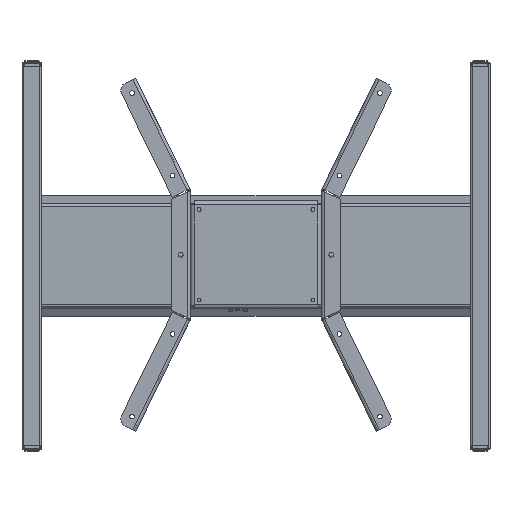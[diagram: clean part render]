
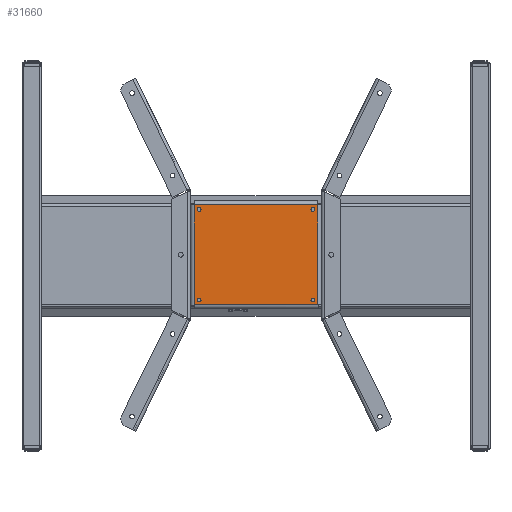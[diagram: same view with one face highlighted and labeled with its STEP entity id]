
A CAD part, top view. The second image highlights one B-rep face of the part: STEP entity #31660.
In plain terms, the highlighted planar face has unit normal (0, 0, 1).
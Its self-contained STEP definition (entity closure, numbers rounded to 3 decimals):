
#1020 = CARTESIAN_POINT ( 'NONE',  ( 64., -79., 4. ) ) ;
#1280 = CARTESIAN_POINT ( 'NONE',  ( -64., 79., 4. ) ) ;
#1377 = FACE_BOUND ( 'NONE', #14714, .T. ) ;
#1973 = EDGE_CURVE ( 'NONE', #35339, #35339, #27885, .T. ) ;
#2367 = CIRCLE ( 'NONE', #12226, 2.5 ) ;
#3017 = EDGE_CURVE ( 'NONE', #14528, #13711, #7368, .T. ) ;
#3313 = CARTESIAN_POINT ( 'NONE',  ( 60.5, -73., 4. ) ) ;
#3489 = DIRECTION ( 'NONE',  ( 1., 0., 0. ) ) ;
#5507 = DIRECTION ( 'NONE',  ( 1., 0., 0. ) ) ;
#5602 = CIRCLE ( 'NONE', #34122, 2.5 ) ;
#7201 = VERTEX_POINT ( 'NONE', #34484 ) ;
#7276 = AXIS2_PLACEMENT_3D ( 'NONE', #28139, #24705, #3489 ) ;
#7368 = LINE ( 'NONE', #32469, #13468 ) ;
#8321 = DIRECTION ( 'NONE',  ( 0., 1., 0. ) ) ;
#9368 = EDGE_CURVE ( 'NONE', #14265, #14265, #45827, .T. ) ;
#9590 = CARTESIAN_POINT ( 'NONE',  ( 64., -79., 4. ) ) ;
#9756 = FACE_OUTER_BOUND ( 'NONE', #20658, .T. ) ;
#9940 = DIRECTION ( 'NONE',  ( 0., 0., 1. ) ) ;
#10088 = DIRECTION ( 'NONE',  ( 1., 0., 0. ) ) ;
#10512 = PLANE ( 'NONE',  #45490 ) ;
#10803 = DIRECTION ( 'NONE',  ( 0., 0., 1. ) ) ;
#12226 = AXIS2_PLACEMENT_3D ( 'NONE', #28722, #39297, #18022 ) ;
#13468 = VECTOR ( 'NONE', #43029, 1000. ) ;
#13711 = VERTEX_POINT ( 'NONE', #17840 ) ;
#14248 = EDGE_CURVE ( 'NONE', #7201, #35127, #38231, .T. ) ;
#14265 = VERTEX_POINT ( 'NONE', #27958 ) ;
#14528 = VERTEX_POINT ( 'NONE', #25828 ) ;
#14714 = EDGE_LOOP ( 'NONE', ( #15557 ) ) ;
#15335 = LINE ( 'NONE', #1020, #17570 ) ;
#15557 = ORIENTED_EDGE ( 'NONE', *, *, #41912, .F. ) ;
#17278 = ORIENTED_EDGE ( 'NONE', *, *, #35622, .T. ) ;
#17570 = VECTOR ( 'NONE', #8321, 1000. ) ;
#17840 = CARTESIAN_POINT ( 'NONE',  ( -64., 79., 4. ) ) ;
#18022 = DIRECTION ( 'NONE',  ( 1., 0., 0. ) ) ;
#18072 = FACE_BOUND ( 'NONE', #37927, .T. ) ;
#18081 = ORIENTED_EDGE ( 'NONE', *, *, #34280, .F. ) ;
#18656 = VERTEX_POINT ( 'NONE', #3313 ) ;
#20476 = CARTESIAN_POINT ( 'NONE',  ( 58., 73., 4. ) ) ;
#20658 = EDGE_LOOP ( 'NONE', ( #41464, #17278, #44479, #40182 ) ) ;
#21435 = CARTESIAN_POINT ( 'NONE',  ( -55.5, 73., 4. ) ) ;
#22115 = VECTOR ( 'NONE', #42335, 1000. ) ;
#24070 = EDGE_CURVE ( 'NONE', #35127, #14528, #15335, .T. ) ;
#24227 = VERTEX_POINT ( 'NONE', #21435 ) ;
#24705 = DIRECTION ( 'NONE',  ( 0., 0., 1. ) ) ;
#24735 = FACE_BOUND ( 'NONE', #24919, .T. ) ;
#24919 = EDGE_LOOP ( 'NONE', ( #18081 ) ) ;
#25828 = CARTESIAN_POINT ( 'NONE',  ( 64., 79., 4. ) ) ;
#27885 = CIRCLE ( 'NONE', #7276, 2.5 ) ;
#27894 = CARTESIAN_POINT ( 'NONE',  ( -65., -79., 4. ) ) ;
#27958 = CARTESIAN_POINT ( 'NONE',  ( 60.5, 73., 4. ) ) ;
#28139 = CARTESIAN_POINT ( 'NONE',  ( -58., -73., 4. ) ) ;
#28603 = ORIENTED_EDGE ( 'NONE', *, *, #1973, .F. ) ;
#28722 = CARTESIAN_POINT ( 'NONE',  ( 58., -73., 4. ) ) ;
#31660 = ADVANCED_FACE ( 'NONE', ( #24735, #41412, #18072, #1377, #9756 ), #10512, .T. ) ;
#31916 = DIRECTION ( 'NONE',  ( 1., 0., 0. ) ) ;
#32469 = CARTESIAN_POINT ( 'NONE',  ( 64., 79., 4. ) ) ;
#32748 = AXIS2_PLACEMENT_3D ( 'NONE', #20476, #9940, #10088 ) ;
#33288 = DIRECTION ( 'NONE',  ( 0., -1., 0. ) ) ;
#33370 = EDGE_LOOP ( 'NONE', ( #28603 ) ) ;
#33617 = CARTESIAN_POINT ( 'NONE',  ( -58., 73., 4. ) ) ;
#33946 = LINE ( 'NONE', #1280, #41689 ) ;
#34039 = CARTESIAN_POINT ( 'NONE',  ( -55.5, -73., 4. ) ) ;
#34122 = AXIS2_PLACEMENT_3D ( 'NONE', #33617, #37008, #5507 ) ;
#34280 = EDGE_CURVE ( 'NONE', #18656, #18656, #2367, .T. ) ;
#34484 = CARTESIAN_POINT ( 'NONE',  ( -64., -79., 4. ) ) ;
#34636 = ORIENTED_EDGE ( 'NONE', *, *, #9368, .F. ) ;
#35127 = VERTEX_POINT ( 'NONE', #9590 ) ;
#35339 = VERTEX_POINT ( 'NONE', #34039 ) ;
#35622 = EDGE_CURVE ( 'NONE', #13711, #7201, #33946, .T. ) ;
#37008 = DIRECTION ( 'NONE',  ( 0., 0., 1. ) ) ;
#37927 = EDGE_LOOP ( 'NONE', ( #34636 ) ) ;
#38231 = LINE ( 'NONE', #27894, #22115 ) ;
#39297 = DIRECTION ( 'NONE',  ( 0., 0., 1. ) ) ;
#39358 = CARTESIAN_POINT ( 'NONE',  ( -65., -80., 4. ) ) ;
#40182 = ORIENTED_EDGE ( 'NONE', *, *, #24070, .T. ) ;
#41412 = FACE_BOUND ( 'NONE', #33370, .T. ) ;
#41464 = ORIENTED_EDGE ( 'NONE', *, *, #3017, .T. ) ;
#41689 = VECTOR ( 'NONE', #33288, 1000. ) ;
#41912 = EDGE_CURVE ( 'NONE', #24227, #24227, #5602, .T. ) ;
#42335 = DIRECTION ( 'NONE',  ( 1., 0., 0. ) ) ;
#43029 = DIRECTION ( 'NONE',  ( -1., 0., 0. ) ) ;
#44479 = ORIENTED_EDGE ( 'NONE', *, *, #14248, .T. ) ;
#45490 = AXIS2_PLACEMENT_3D ( 'NONE', #39358, #10803, #31916 ) ;
#45827 = CIRCLE ( 'NONE', #32748, 2.5 ) ;
